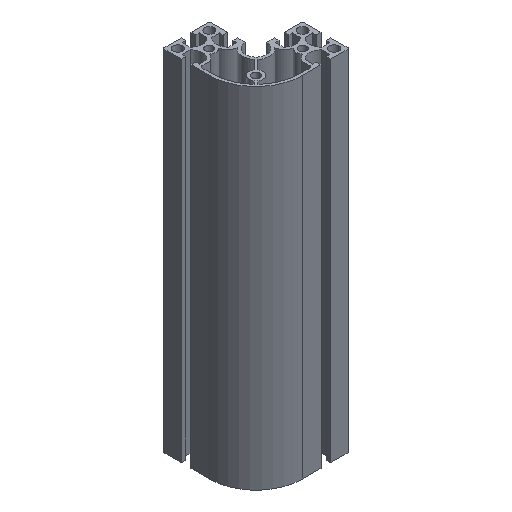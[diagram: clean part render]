
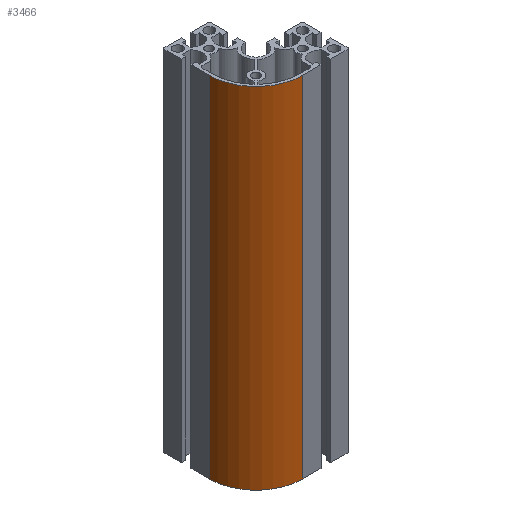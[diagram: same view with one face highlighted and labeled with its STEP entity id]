
A CAD part, isometric view. The second image highlights one B-rep face of the part: STEP entity #3466.
In plain terms, the highlighted cylindrical face has radius 40 mm (diameter 80 mm), a partial arc.
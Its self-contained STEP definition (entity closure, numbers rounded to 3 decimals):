
#105 = VECTOR ( 'NONE', #1007, 1000. ) ;
#184 = CARTESIAN_POINT ( 'NONE',  ( -40., 0., -150. ) ) ;
#194 = EDGE_CURVE ( 'NONE', #280, #1293, #626, .T. ) ;
#241 = DIRECTION ( 'NONE',  ( 1., 0., 0. ) ) ;
#247 = DIRECTION ( 'NONE',  ( 0., 0., 1. ) ) ;
#280 = VERTEX_POINT ( 'NONE', #184 ) ;
#351 = CARTESIAN_POINT ( 'NONE',  ( -40., 0., 150. ) ) ;
#413 = FACE_OUTER_BOUND ( 'NONE', #1074, .T. ) ;
#501 = CYLINDRICAL_SURFACE ( 'NONE', #872, 40. ) ;
#604 = DIRECTION ( 'NONE',  ( 0., 0., 1. ) ) ;
#610 = CARTESIAN_POINT ( 'NONE',  ( 0., 0., -150. ) ) ;
#626 = CIRCLE ( 'NONE', #1277, 40. ) ;
#648 = ORIENTED_EDGE ( 'NONE', *, *, #194, .T. ) ;
#872 = AXIS2_PLACEMENT_3D ( 'NONE', #1785, #1420, #1049 ) ;
#1002 = EDGE_CURVE ( 'NONE', #1825, #1293, #2815, .T. ) ;
#1007 = DIRECTION ( 'NONE',  ( 0., 0., -1. ) ) ;
#1049 = DIRECTION ( 'NONE',  ( -1., 0., 0. ) ) ;
#1074 = EDGE_LOOP ( 'NONE', ( #648, #2810, #1903, #2014 ) ) ;
#1277 = AXIS2_PLACEMENT_3D ( 'NONE', #610, #247, #3476 ) ;
#1293 = VERTEX_POINT ( 'NONE', #2294 ) ;
#1329 = CARTESIAN_POINT ( 'NONE',  ( 0., 0., 150. ) ) ;
#1380 = CARTESIAN_POINT ( 'NONE',  ( -40., 0., 150. ) ) ;
#1420 = DIRECTION ( 'NONE',  ( 0., 0., -1. ) ) ;
#1655 = VECTOR ( 'NONE', #2071, 1000. ) ;
#1723 = EDGE_CURVE ( 'NONE', #2605, #280, #1753, .T. ) ;
#1753 = LINE ( 'NONE', #1380, #105 ) ;
#1785 = CARTESIAN_POINT ( 'NONE',  ( 0., 0., 150. ) ) ;
#1825 = VERTEX_POINT ( 'NONE', #1947 ) ;
#1903 = ORIENTED_EDGE ( 'NONE', *, *, #1950, .F. ) ;
#1947 = CARTESIAN_POINT ( 'NONE',  ( 0., -40., 150. ) ) ;
#1950 = EDGE_CURVE ( 'NONE', #2605, #1825, #3230, .T. ) ;
#2014 = ORIENTED_EDGE ( 'NONE', *, *, #1723, .T. ) ;
#2071 = DIRECTION ( 'NONE',  ( 0., 0., -1. ) ) ;
#2294 = CARTESIAN_POINT ( 'NONE',  ( 0., -40., -150. ) ) ;
#2451 = CARTESIAN_POINT ( 'NONE',  ( 0., -40., 150. ) ) ;
#2605 = VERTEX_POINT ( 'NONE', #351 ) ;
#2810 = ORIENTED_EDGE ( 'NONE', *, *, #1002, .F. ) ;
#2815 = LINE ( 'NONE', #2451, #1655 ) ;
#3230 = CIRCLE ( 'NONE', #3438, 40. ) ;
#3438 = AXIS2_PLACEMENT_3D ( 'NONE', #1329, #604, #241 ) ;
#3466 = ADVANCED_FACE ( 'NONE', ( #413 ), #501, .T. ) ;
#3476 = DIRECTION ( 'NONE',  ( 1., 0., 0. ) ) ;
